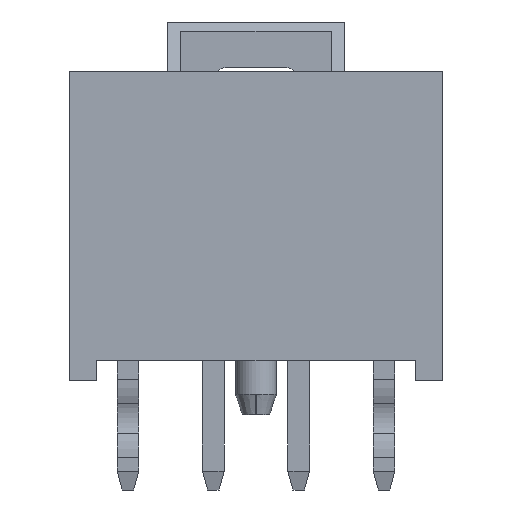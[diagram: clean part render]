
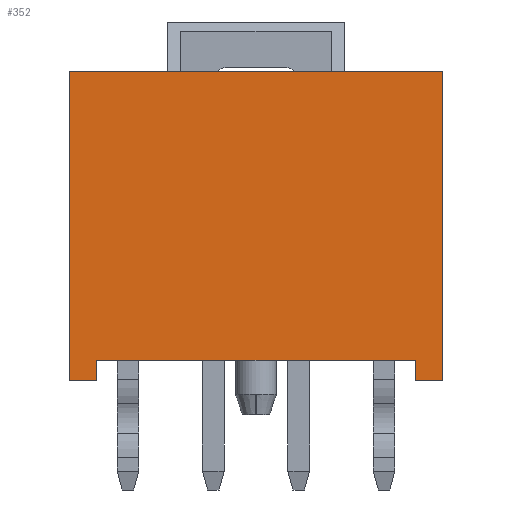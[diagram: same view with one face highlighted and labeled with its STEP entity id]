
A CAD part, front view. The second image highlights one B-rep face of the part: STEP entity #352.
In plain terms, the highlighted planar face has unit normal (0, -1, 0).
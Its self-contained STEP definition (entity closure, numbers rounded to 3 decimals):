
#5 = DIRECTION ( 'NONE',  ( 0., 0., -1. ) ) ;
#352 = ADVANCED_FACE ( 'NONE', ( #16952 ), #4844, .F. ) ;
#439 = CARTESIAN_POINT ( 'NONE',  ( -4.67, -2.99, -4.23 ) ) ;
#853 = DIRECTION ( 'NONE',  ( 1., 0., 0. ) ) ;
#927 = DIRECTION ( 'NONE',  ( 0., 0., -1. ) ) ;
#1240 = EDGE_LOOP ( 'NONE', ( #14455, #13832, #2475, #16978, #1998, #10264, #8301, #14104 ) ) ;
#1263 = DIRECTION ( 'NONE',  ( -1., 0., 0. ) ) ;
#1332 = EDGE_CURVE ( 'NONE', #12486, #7043, #1448, .T. ) ;
#1448 = LINE ( 'NONE', #12179, #6481 ) ;
#1495 = EDGE_CURVE ( 'NONE', #13860, #8559, #6404, .T. ) ;
#1998 = ORIENTED_EDGE ( 'NONE', *, *, #7348, .T. ) ;
#2075 = EDGE_CURVE ( 'NONE', #5056, #7043, #13416, .T. ) ;
#2308 = EDGE_CURVE ( 'NONE', #8559, #14349, #16645, .T. ) ;
#2475 = ORIENTED_EDGE ( 'NONE', *, *, #2766, .F. ) ;
#2766 = EDGE_CURVE ( 'NONE', #13497, #12486, #11893, .T. ) ;
#2836 = CARTESIAN_POINT ( 'NONE',  ( -4.67, -2.99, -4.83 ) ) ;
#3255 = CARTESIAN_POINT ( 'NONE',  ( 0., -2.99, 0. ) ) ;
#3734 = EDGE_CURVE ( 'NONE', #5056, #13860, #18844, .T. ) ;
#4385 = CARTESIAN_POINT ( 'NONE',  ( 4.67, -2.99, -4.23 ) ) ;
#4844 = PLANE ( 'NONE',  #12416 ) ;
#5042 = VECTOR ( 'NONE', #18129, 1000. ) ;
#5056 = VERTEX_POINT ( 'NONE', #7696 ) ;
#5728 = DIRECTION ( 'NONE',  ( 0., 0., -1. ) ) ;
#6052 = EDGE_CURVE ( 'NONE', #8154, #13497, #19019, .T. ) ;
#6404 = LINE ( 'NONE', #439, #11109 ) ;
#6481 = VECTOR ( 'NONE', #13370, 1000. ) ;
#7043 = VERTEX_POINT ( 'NONE', #16547 ) ;
#7348 = EDGE_CURVE ( 'NONE', #8154, #14349, #10160, .T. ) ;
#7696 = CARTESIAN_POINT ( 'NONE',  ( 4.67, -2.99, -4.23 ) ) ;
#8008 = DIRECTION ( 'NONE',  ( 0., 1., 0. ) ) ;
#8154 = VERTEX_POINT ( 'NONE', #9778 ) ;
#8301 = ORIENTED_EDGE ( 'NONE', *, *, #1495, .F. ) ;
#8559 = VERTEX_POINT ( 'NONE', #16624 ) ;
#9778 = CARTESIAN_POINT ( 'NONE',  ( -5.47, -2.99, 4.23 ) ) ;
#10160 = LINE ( 'NONE', #11462, #17060 ) ;
#10264 = ORIENTED_EDGE ( 'NONE', *, *, #2308, .F. ) ;
#10293 = CARTESIAN_POINT ( 'NONE',  ( 5.47, -2.99, 4.23 ) ) ;
#10424 = VECTOR ( 'NONE', #5728, 1000. ) ;
#11109 = VECTOR ( 'NONE', #17217, 1000. ) ;
#11462 = CARTESIAN_POINT ( 'NONE',  ( -5.47, -2.99, 4.23 ) ) ;
#11798 = CARTESIAN_POINT ( 'NONE',  ( -5.47, -2.99, -4.83 ) ) ;
#11893 = LINE ( 'NONE', #10293, #10424 ) ;
#12179 = CARTESIAN_POINT ( 'NONE',  ( 5.47, -2.99, -4.83 ) ) ;
#12398 = DIRECTION ( 'NONE',  ( 1., 0., 0. ) ) ;
#12416 = AXIS2_PLACEMENT_3D ( 'NONE', #3255, #8008, #12398 ) ;
#12486 = VERTEX_POINT ( 'NONE', #16723 ) ;
#13370 = DIRECTION ( 'NONE',  ( -1., 0., 0. ) ) ;
#13416 = LINE ( 'NONE', #4385, #17090 ) ;
#13497 = VERTEX_POINT ( 'NONE', #13542 ) ;
#13542 = CARTESIAN_POINT ( 'NONE',  ( 5.47, -2.99, 4.23 ) ) ;
#13832 = ORIENTED_EDGE ( 'NONE', *, *, #1332, .F. ) ;
#13860 = VERTEX_POINT ( 'NONE', #18674 ) ;
#14104 = ORIENTED_EDGE ( 'NONE', *, *, #3734, .F. ) ;
#14349 = VERTEX_POINT ( 'NONE', #11798 ) ;
#14455 = ORIENTED_EDGE ( 'NONE', *, *, #2075, .T. ) ;
#15171 = VECTOR ( 'NONE', #853, 1000. ) ;
#16458 = CARTESIAN_POINT ( 'NONE',  ( 4.67, -2.99, -4.23 ) ) ;
#16547 = CARTESIAN_POINT ( 'NONE',  ( 4.67, -2.99, -4.83 ) ) ;
#16624 = CARTESIAN_POINT ( 'NONE',  ( -4.67, -2.99, -4.83 ) ) ;
#16645 = LINE ( 'NONE', #2836, #5042 ) ;
#16723 = CARTESIAN_POINT ( 'NONE',  ( 5.47, -2.99, -4.83 ) ) ;
#16952 = FACE_OUTER_BOUND ( 'NONE', #1240, .T. ) ;
#16978 = ORIENTED_EDGE ( 'NONE', *, *, #6052, .F. ) ;
#17060 = VECTOR ( 'NONE', #927, 1000. ) ;
#17090 = VECTOR ( 'NONE', #5, 1000. ) ;
#17217 = DIRECTION ( 'NONE',  ( 0., 0., -1. ) ) ;
#17728 = CARTESIAN_POINT ( 'NONE',  ( -5.47, -2.99, 4.23 ) ) ;
#18129 = DIRECTION ( 'NONE',  ( -1., 0., 0. ) ) ;
#18466 = VECTOR ( 'NONE', #1263, 1000. ) ;
#18674 = CARTESIAN_POINT ( 'NONE',  ( -4.67, -2.99, -4.23 ) ) ;
#18844 = LINE ( 'NONE', #16458, #18466 ) ;
#19019 = LINE ( 'NONE', #17728, #15171 ) ;
